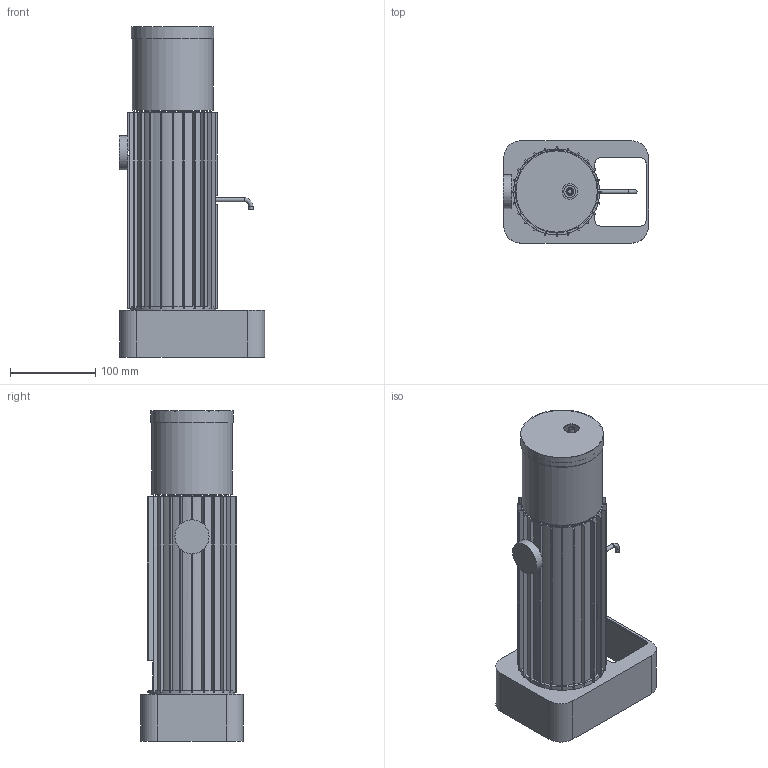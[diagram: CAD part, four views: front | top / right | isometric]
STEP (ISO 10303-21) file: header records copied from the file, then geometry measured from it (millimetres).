
FILE_DESCRIPTION(('Open CASCADE Model'),'2;1');
FILE_NAME('Open CASCADE Shape Model','2026-10-21T10:33:18',('Author'),( 'Open CASCADE'),'Open CASCADE STEP processor 7.9','Open CASCADE 7.9' ,'Unknown');
FILE_SCHEMA(('AUTOMOTIVE_DESIGN { 1 0 10303 214 1 1 1 1 }'));
Length unit declared in the file: millimetre
Products named in the file (24): MPx_BoilLoop_Mini_v05; P01_base_housing; P02_heat_shield_plate; P03_shell; P04_body_coil; P05_hx_coil_outer; P05_hx_coil_inner; P06_insulation_sleeve; P07_core_can; P07_core_lid; P07_aerogel_liner; P08_heater_block; P09_heater_coil; P10_boil_coil; P11_vent_standpipe; P12_drawer_body; P13_catcher_cartridge; P14_wax_gate_envelope; P15_jug; P16_cap; P21_top_plate; P17_spout; P19_pump_envelope; P18_dial_envelope
Assembly tree (23 placements, depth 2):
  MPx_BoilLoop_Mini_v05
    P01_base_housing
    P02_heat_shield_plate
    P03_shell
    P04_body_coil
    P05_hx_coil_outer
    P05_hx_coil_inner
    P06_insulation_sleeve
    P07_core_can
    P07_core_lid
    P07_aerogel_liner
    P08_heater_block
    P09_heater_coil
    P10_boil_coil
    P11_vent_standpipe
    P12_drawer_body
    P13_catcher_cartridge
    P14_wax_gate_envelope
    P15_jug
    P16_cap
    P21_top_plate
    P17_spout
    P19_pump_envelope
    P18_dial_envelope
Bounding box: 170.5 x 120 x 388 mm (x, y, z)
Volume: 822640.9 mm3; surface area: 921905.2 mm2
Topology: 23 solids, 23 shells, 279 faces, 677 edges, 448 vertices
Faces by surface type: plane 168, cylinder 98, bspline 11, torus 2
Full cylindrical faces by diameter (mm): 3.74 x2, 4.2 x1, 4.76 x2, 4.93 x1, 6 x1, 6.1 x1, 6.35 x1, 6.5 x1, 6.6 x1, 7 x7, 8 x2, 9 x1, 10.5 x1, 10.92 x1, 13.5 x2, 14 x1, 16 x1, 18 x1, 20 x10, 22 x1, 26 x1, 34 x1, 36 x1, 36.8 x1, 40 x1, 42.8 x2, 44 x2, 75 x1, 79 x1, 89 x1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
Entity records: 34174 total; most frequent: CARTESIAN_POINT 19907, DIRECTION 2574, LINE 1476, VECTOR 1476, ORIENTED_EDGE 1354, PCURVE 1354, DEFINITIONAL_REPRESENTATION 1354, EDGE_CURVE 677
